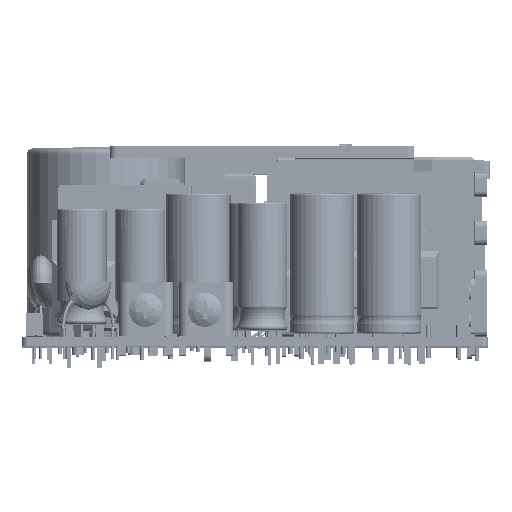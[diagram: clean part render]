
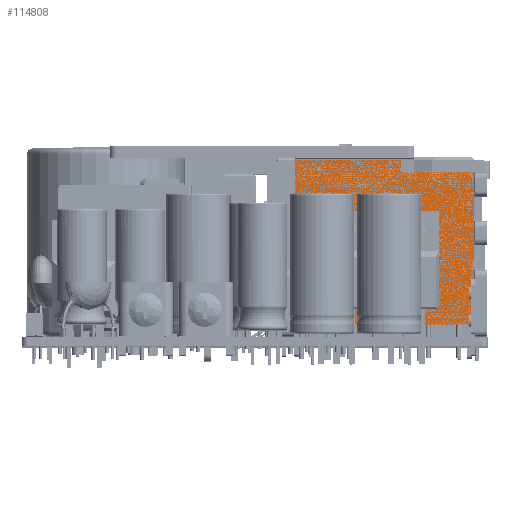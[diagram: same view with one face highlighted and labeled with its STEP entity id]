
A CAD part, top view. The second image highlights one B-rep face of the part: STEP entity #114808.
In plain terms, the highlighted planar face has unit normal (0, 0, 1) as drawn and (1, 0, 0) by its records, which use the part's own axes.
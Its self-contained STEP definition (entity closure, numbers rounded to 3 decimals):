
#112532=DIRECTION('',(0.,1.,0.));
#112533=VECTOR('',#112532,29.25);
#112534=CARTESIAN_POINT('',(109.05,44.9,3.6));
#112535=LINE('',#112534,#112533);
#112584=DIRECTION('',(0.,0.,-1.));
#112585=VECTOR('',#112584,18.1);
#112586=CARTESIAN_POINT('',(109.05,44.9,30.7));
#112587=LINE('',#112586,#112585);
#112632=DIRECTION('',(0.,0.,1.));
#112633=VECTOR('',#112632,2.1);
#112634=CARTESIAN_POINT('',(109.05,62.25,28.6));
#112635=LINE('',#112634,#112633);
#112640=DIRECTION('',(0.,-1.,0.));
#112641=VECTOR('',#112640,11.9);
#112642=CARTESIAN_POINT('',(109.05,74.15,28.6));
#112643=LINE('',#112642,#112641);
#112688=DIRECTION('',(0.,0.,1.));
#112689=VECTOR('',#112688,4.);
#112690=CARTESIAN_POINT('',(109.05,74.15,20.6));
#112691=LINE('',#112690,#112689);
#112736=DIRECTION('',(0.,0.,1.));
#112737=VECTOR('',#112736,4.);
#112738=CARTESIAN_POINT('',(109.05,74.15,12.6));
#112739=LINE('',#112738,#112737);
#112776=DIRECTION('',(0.,0.,1.));
#112777=VECTOR('',#112776,9.);
#112778=CARTESIAN_POINT('',(109.05,74.15,3.6));
#112779=LINE('',#112778,#112777);
#112784=CARTESIAN_POINT('',(109.05,51.65,19.1));
#112785=DIRECTION('',(1.,0.,0.));
#112786=DIRECTION('',(0.,1.,0.));
#112787=AXIS2_PLACEMENT_3D('',#112784,#112785,#112786);
#112789=CARTESIAN_POINT('',(109.05,51.65,19.1));
#112790=DIRECTION('',(1.,0.,0.));
#112791=DIRECTION('',(0.,-1.,0.));
#112792=AXIS2_PLACEMENT_3D('',#112789,#112790,#112791);
#112794=CARTESIAN_POINT('',(109.05,63.15,19.1));
#112795=DIRECTION('',(1.,0.,0.));
#112796=DIRECTION('',(0.,1.,0.));
#112797=AXIS2_PLACEMENT_3D('',#112794,#112795,#112796);
#112799=CARTESIAN_POINT('',(109.05,63.15,19.1));
#112800=DIRECTION('',(1.,0.,0.));
#112801=DIRECTION('',(0.,-1.,0.));
#112802=AXIS2_PLACEMENT_3D('',#112799,#112800,#112801);
#112808=DIRECTION('',(0.,0.,-1.));
#112809=VECTOR('',#112808,9.);
#112810=CARTESIAN_POINT('',(109.05,44.9,12.6));
#112811=LINE('',#112810,#112809);
#113154=DIRECTION('',(0.,-1.,0.));
#113155=VECTOR('',#113154,17.35);
#113156=CARTESIAN_POINT('',(109.05,62.25,30.7));
#113157=LINE('',#113156,#113155);
#113416=DIRECTION('',(0.,0.,1.));
#113417=VECTOR('',#113416,4.);
#113418=CARTESIAN_POINT('',(109.05,74.15,24.6));
#113419=LINE('',#113418,#113417);
#113484=DIRECTION('',(0.,0.,1.));
#113485=VECTOR('',#113484,4.);
#113486=CARTESIAN_POINT('',(109.05,74.15,16.6));
#113487=LINE('',#113486,#113485);
#114152=CARTESIAN_POINT('',(109.05,44.9,3.6));
#114153=VERTEX_POINT('',#114152);
#114154=CARTESIAN_POINT('',(109.05,74.15,3.6));
#114155=VERTEX_POINT('',#114154);
#114162=CARTESIAN_POINT('',(109.05,44.9,12.6));
#114163=VERTEX_POINT('',#114162);
#114166=CARTESIAN_POINT('',(109.05,44.9,30.7));
#114167=VERTEX_POINT('',#114166);
#114174=CARTESIAN_POINT('',(109.05,62.25,30.7));
#114175=VERTEX_POINT('',#114174);
#114178=CARTESIAN_POINT('',(109.05,62.25,28.6));
#114179=VERTEX_POINT('',#114178);
#114180=CARTESIAN_POINT('',(109.05,74.15,28.6));
#114181=VERTEX_POINT('',#114180);
#114188=CARTESIAN_POINT('',(109.05,74.15,24.6));
#114189=VERTEX_POINT('',#114188);
#114192=CARTESIAN_POINT('',(109.05,74.15,20.6));
#114193=VERTEX_POINT('',#114192);
#114200=CARTESIAN_POINT('',(109.05,74.15,16.6));
#114201=VERTEX_POINT('',#114200);
#114204=CARTESIAN_POINT('',(109.05,74.15,12.6));
#114205=VERTEX_POINT('',#114204);
#114214=CARTESIAN_POINT('',(109.05,53.2,19.1));
#114215=CARTESIAN_POINT('',(109.05,50.1,19.1));
#114216=VERTEX_POINT('',#114214);
#114217=VERTEX_POINT('',#114215);
#114218=CARTESIAN_POINT('',(109.05,64.7,19.1));
#114219=CARTESIAN_POINT('',(109.05,61.6,19.1));
#114220=VERTEX_POINT('',#114218);
#114221=VERTEX_POINT('',#114219);
#114774=CARTESIAN_POINT('',(109.05,59.525,17.15));
#114775=DIRECTION('',(1.,0.,0.));
#114776=DIRECTION('',(0.,1.,0.));
#114777=AXIS2_PLACEMENT_3D('',#114774,#114775,#114776);
#114778=PLANE('',#114777);
#114779=ORIENTED_EDGE('',*,*,#114464,.F.);
#114781=ORIENTED_EDGE('',*,*,#114780,.F.);
#114782=ORIENTED_EDGE('',*,*,#114523,.F.);
#114784=ORIENTED_EDGE('',*,*,#114783,.F.);
#114785=ORIENTED_EDGE('',*,*,#114581,.F.);
#114786=ORIENTED_EDGE('',*,*,#114595,.F.);
#114788=ORIENTED_EDGE('',*,*,#114787,.F.);
#114789=ORIENTED_EDGE('',*,*,#114654,.F.);
#114791=ORIENTED_EDGE('',*,*,#114790,.F.);
#114792=ORIENTED_EDGE('',*,*,#114712,.F.);
#114793=ORIENTED_EDGE('',*,*,#114766,.F.);
#114794=EDGE_LOOP('',(#114779,#114781,#114782,#114784,#114785,#114786,#114788,
#114789,#114791,#114792,#114793));
#114795=FACE_OUTER_BOUND('',#114794,.F.);
#114797=ORIENTED_EDGE('',*,*,#114796,.T.);
#114799=ORIENTED_EDGE('',*,*,#114798,.T.);
#114800=EDGE_LOOP('',(#114797,#114799));
#114801=FACE_BOUND('',#114800,.F.);
#114803=ORIENTED_EDGE('',*,*,#114802,.T.);
#114805=ORIENTED_EDGE('',*,*,#114804,.T.);
#114806=EDGE_LOOP('',(#114803,#114805));
#114807=FACE_BOUND('',#114806,.F.);
#112788=CIRCLE('',#112787,1.55);
#112793=CIRCLE('',#112792,1.55);
#112798=CIRCLE('',#112797,1.55);
#112803=CIRCLE('',#112802,1.55);
#114464=EDGE_CURVE('',#114153,#114155,#112535,.T.);
#114523=EDGE_CURVE('',#114167,#114163,#112587,.T.);
#114581=EDGE_CURVE('',#114179,#114175,#112635,.T.);
#114595=EDGE_CURVE('',#114181,#114179,#112643,.T.);
#114654=EDGE_CURVE('',#114193,#114189,#112691,.T.);
#114712=EDGE_CURVE('',#114205,#114201,#112739,.T.);
#114766=EDGE_CURVE('',#114155,#114205,#112779,.T.);
#114780=EDGE_CURVE('',#114163,#114153,#112811,.T.);
#114783=EDGE_CURVE('',#114175,#114167,#113157,.T.);
#114787=EDGE_CURVE('',#114189,#114181,#113419,.T.);
#114790=EDGE_CURVE('',#114201,#114193,#113487,.T.);
#114796=EDGE_CURVE('',#114216,#114217,#112788,.T.);
#114798=EDGE_CURVE('',#114217,#114216,#112793,.T.);
#114802=EDGE_CURVE('',#114220,#114221,#112798,.T.);
#114804=EDGE_CURVE('',#114221,#114220,#112803,.T.);
#114808=ADVANCED_FACE('',(#114795,#114801,#114807),#114778,.T.);
